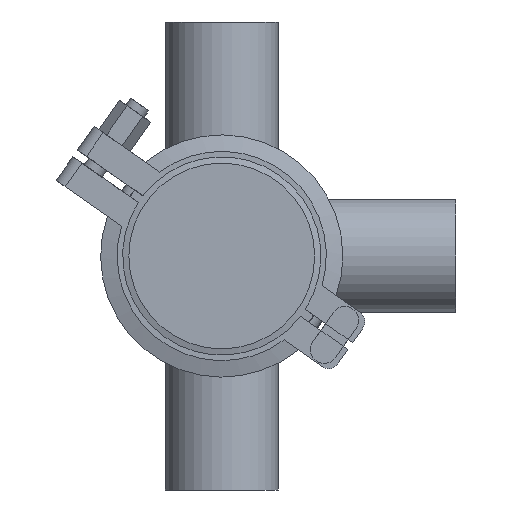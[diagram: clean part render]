
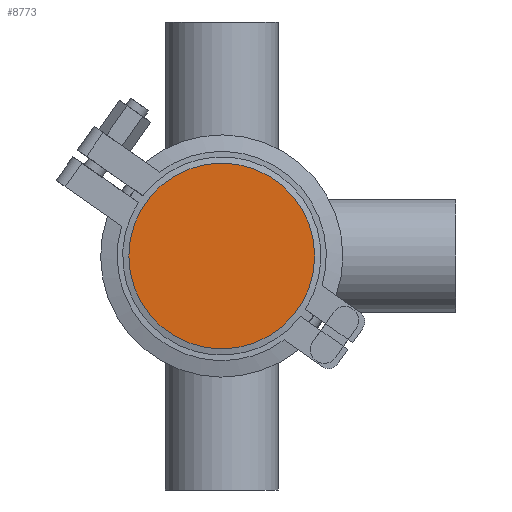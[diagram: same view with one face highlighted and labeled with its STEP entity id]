
A CAD part, front view. The second image highlights one B-rep face of the part: STEP entity #8773.
In plain terms, the highlighted planar face has unit normal (0, -1, 0).
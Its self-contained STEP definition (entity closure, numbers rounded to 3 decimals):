
#944 = DIRECTION ( 'NONE',  ( 0., 0., 1. ) ) ;
#1419 = EDGE_LOOP ( 'NONE', ( #11389 ) ) ;
#2535 = DIRECTION ( 'NONE',  ( 0., 0., -1. ) ) ;
#4259 = PLANE ( 'NONE',  #9580 ) ;
#5259 = CARTESIAN_POINT ( 'NONE',  ( 0., 0., 33.75 ) ) ;
#6810 = EDGE_CURVE ( 'NONE', #11352, #11352, #7201, .T. ) ;
#7201 = CIRCLE ( 'NONE', #18677, 33.75 ) ;
#8773 = ADVANCED_FACE ( 'NONE', ( #9202 ), #4259, .T. ) ;
#9202 = FACE_OUTER_BOUND ( 'NONE', #1419, .T. ) ;
#9580 = AXIS2_PLACEMENT_3D ( 'NONE', #13576, #18253, #2535 ) ;
#10406 = DIRECTION ( 'NONE',  ( 0., 1., 0. ) ) ;
#11352 = VERTEX_POINT ( 'NONE', #5259 ) ;
#11389 = ORIENTED_EDGE ( 'NONE', *, *, #6810, .F. ) ;
#13576 = CARTESIAN_POINT ( 'NONE',  ( -33.75, 0., 0. ) ) ;
#16950 = CARTESIAN_POINT ( 'NONE',  ( 0., 0., 0. ) ) ;
#18253 = DIRECTION ( 'NONE',  ( 0., -1., 0. ) ) ;
#18677 = AXIS2_PLACEMENT_3D ( 'NONE', #16950, #10406, #944 ) ;
